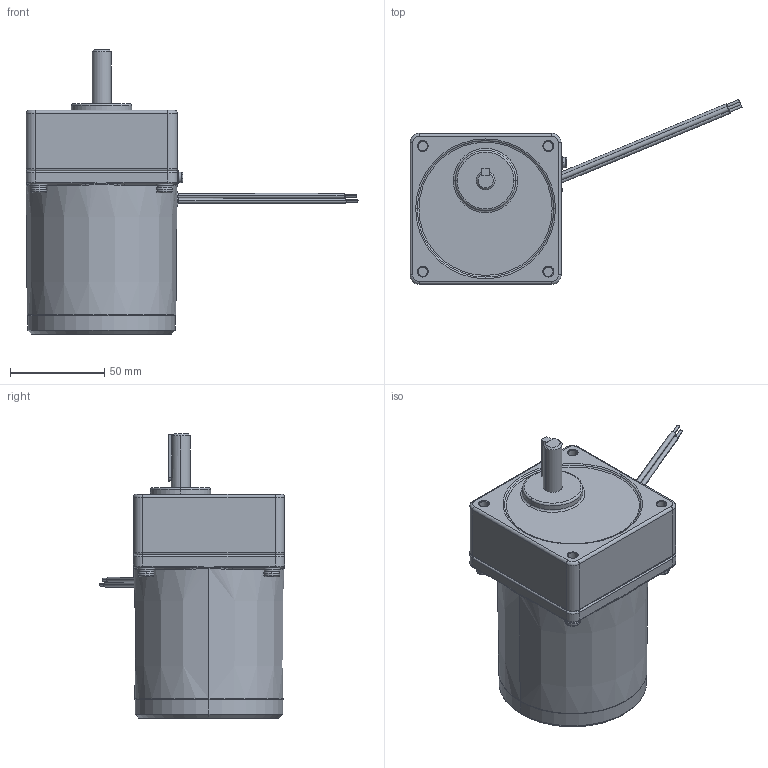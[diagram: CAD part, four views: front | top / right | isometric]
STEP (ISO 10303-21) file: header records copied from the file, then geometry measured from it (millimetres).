
FILE_DESCRIPTION (( 'STEP AP214' ), '1' );
FILE_NAME ('ACWGM025-080-085-R3~15.STEP', '2010-06-10T22:27:06', ( 'Tim Raines' ), ( 'Anaheim Automation' ), 'SwSTEP 2.0', 'SolidWorks 2010', '' );
FILE_SCHEMA (( 'AUTOMOTIVE_DESIGN' ));
Length unit declared in the file: millimetre
Products named in the file (1): ACWGM025-080-085-R3~15
Bounding box: 175.75 x 97.96 x 150.5 mm (x, y, z)
Volume: 637674.7 mm3; surface area: 52356.3 mm2
Topology: 11 solids, 12 shells, 409 faces, 902 edges, 549 vertices
Faces by surface type: plane 143, cylinder 132, torus 90, cone 28, bspline 16
Entity records: 16977 total; most frequent: CARTESIAN_POINT 3107, DIRECTION 2090, ORIENTED_EDGE 1800, EDGE_CURVE 900, AXIS2_PLACEMENT_3D 856, VERTEX_POINT 549, EDGE_LOOP 463, CIRCLE 462
